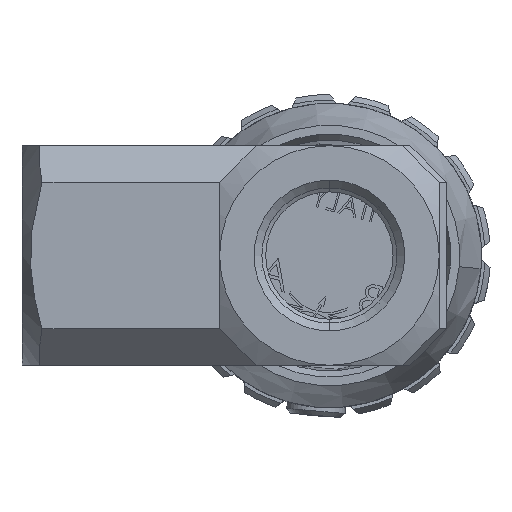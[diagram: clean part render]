
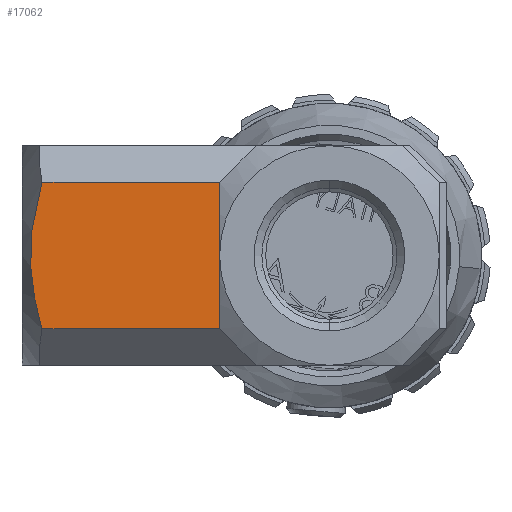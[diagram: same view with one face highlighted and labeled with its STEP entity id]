
A CAD part, front view. The second image highlights one B-rep face of the part: STEP entity #17062.
In plain terms, the highlighted planar face has unit normal (0, -1, 0).
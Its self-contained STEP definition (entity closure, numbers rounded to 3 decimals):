
#809 = LINE ( 'NONE', #11134, #6565 ) ;
#848 = CARTESIAN_POINT ( 'NONE',  ( -19.874, -8.5, -4.187 ) ) ;
#2390 = DIRECTION ( 'NONE',  ( -1., 0., 0. ) ) ;
#5287 = ORIENTED_EDGE ( 'NONE', *, *, #5892, .F. ) ;
#5500 = AXIS2_PLACEMENT_3D ( 'NONE', #21757, #7117, #24218 ) ;
#5892 = EDGE_CURVE ( 'NONE', #15251, #14680, #809, .T. ) ;
#6565 = VECTOR ( 'NONE', #15844, 1000. ) ;
#7117 = DIRECTION ( 'NONE',  ( 0., -1., 0. ) ) ;
#9887 = EDGE_CURVE ( 'NONE', #11245, #23201, #20951, .T. ) ;
#9986 = EDGE_CURVE ( 'NONE', #23201, #14680, #18717, .T. ) ;
#10381 = CARTESIAN_POINT ( 'NONE',  ( -19.873, -8.5, 4.192 ) ) ;
#10583 = CARTESIAN_POINT ( 'NONE',  ( -20.346, -8.5, 1.705 ) ) ;
#11134 = CARTESIAN_POINT ( 'NONE',  ( -7.5, -8.5, -7.5 ) ) ;
#11211 = ORIENTED_EDGE ( 'NONE', *, *, #9986, .T. ) ;
#11245 = VERTEX_POINT ( 'NONE', #13840 ) ;
#11998 = CARTESIAN_POINT ( 'NONE',  ( -7.5, -8.5, -5. ) ) ;
#12734 = VECTOR ( 'NONE', #2390, 1000. ) ;
#13051 = CARTESIAN_POINT ( 'NONE',  ( -20.423, -8.5, -0.844 ) ) ;
#13840 = CARTESIAN_POINT ( 'NONE',  ( -19.637, -8.5, 5. ) ) ;
#14576 = CARTESIAN_POINT ( 'NONE',  ( -21., -8.5, 5. ) ) ;
#14680 = VERTEX_POINT ( 'NONE', #11998 ) ;
#15009 = EDGE_LOOP ( 'NONE', ( #29808, #31263, #11211, #5287 ) ) ;
#15251 = VERTEX_POINT ( 'NONE', #16968 ) ;
#15506 = CARTESIAN_POINT ( 'NONE',  ( -20.075, -8.5, -3.354 ) ) ;
#15747 = EDGE_CURVE ( 'NONE', #15251, #11245, #26494, .T. ) ;
#15844 = DIRECTION ( 'NONE',  ( 0., 0., -1. ) ) ;
#16968 = CARTESIAN_POINT ( 'NONE',  ( -7.5, -8.5, 5. ) ) ;
#17062 = ADVANCED_FACE ( 'NONE', ( #23312 ), #26571, .T. ) ;
#17968 = CARTESIAN_POINT ( 'NONE',  ( -19.637, -8.5, -5. ) ) ;
#18717 = LINE ( 'NONE', #20625, #30952 ) ;
#20625 = CARTESIAN_POINT ( 'NONE',  ( -7.5, -8.5, -5. ) ) ;
#20951 = B_SPLINE_CURVE_WITH_KNOTS ( 'NONE', 3,
 ( #25210, #10381, #22760, #10583, #27662, #13051, #30142, #15506, #848, #17968 ),
 .UNSPECIFIED., .F., .F.,
 ( 4, 2, 2, 2, 4 ),
 ( 0.022, 0.025, 0.027, 0.03, 0.032 ),
 .UNSPECIFIED. ) ;
#21757 = CARTESIAN_POINT ( 'NONE',  ( -21., -8.5, 7.5 ) ) ;
#22760 = CARTESIAN_POINT ( 'NONE',  ( -20.07, -8.5, 3.374 ) ) ;
#23201 = VERTEX_POINT ( 'NONE', #27785 ) ;
#23312 = FACE_OUTER_BOUND ( 'NONE', #15009, .T. ) ;
#24218 = DIRECTION ( 'NONE',  ( 0., 0., -1. ) ) ;
#25210 = CARTESIAN_POINT ( 'NONE',  ( -19.637, -8.5, 5. ) ) ;
#25524 = DIRECTION ( 'NONE',  ( 1., 0., 0. ) ) ;
#26494 = LINE ( 'NONE', #14576, #12734 ) ;
#26571 = PLANE ( 'NONE',  #5500 ) ;
#27662 = CARTESIAN_POINT ( 'NONE',  ( -20.423, -8.5, 0.847 ) ) ;
#27785 = CARTESIAN_POINT ( 'NONE',  ( -19.637, -8.5, -5. ) ) ;
#29808 = ORIENTED_EDGE ( 'NONE', *, *, #15747, .T. ) ;
#30142 = CARTESIAN_POINT ( 'NONE',  ( -20.349, -8.5, -1.684 ) ) ;
#30952 = VECTOR ( 'NONE', #25524, 1000. ) ;
#31263 = ORIENTED_EDGE ( 'NONE', *, *, #9887, .T. ) ;
